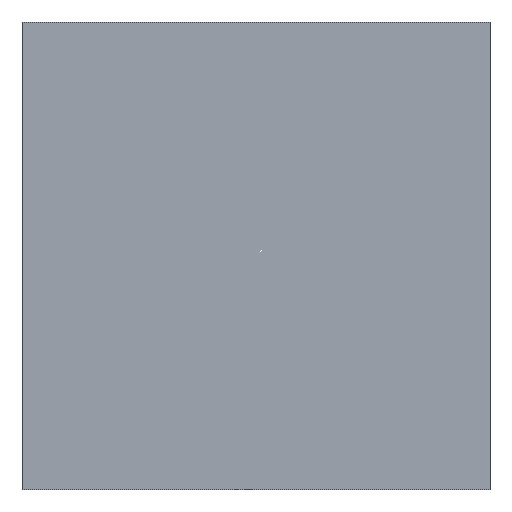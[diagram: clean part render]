
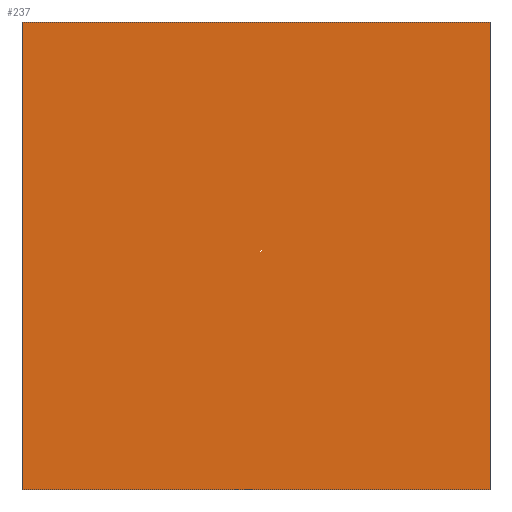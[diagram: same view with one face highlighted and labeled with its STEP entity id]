
A CAD part, front view. The second image highlights one B-rep face of the part: STEP entity #237.
In plain terms, the highlighted planar face has unit normal (0, -1, 0).
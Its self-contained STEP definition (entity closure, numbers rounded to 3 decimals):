
#21 = EDGE_CURVE('',#22,#24,#26,.T.);
#22 = VERTEX_POINT('',#23);
#23 = CARTESIAN_POINT('',(2.5,-13.4,10.65));
#24 = VERTEX_POINT('',#25);
#25 = CARTESIAN_POINT('',(2.5,-13.4,10.95));
#26 = SURFACE_CURVE('',#27,(#31,#43),.PCURVE_S1.);
#27 = LINE('',#28,#29);
#28 = CARTESIAN_POINT('',(2.5,-13.4,10.65));
#29 = VECTOR('',#30,1.);
#30 = DIRECTION('',(0.,0.,1.));
#31 = PCURVE('',#32,#37);
#32 = PLANE('',#33);
#33 = AXIS2_PLACEMENT_3D('',#34,#35,#36);
#34 = CARTESIAN_POINT('',(2.5,-13.4,10.65));
#35 = DIRECTION('',(1.,0.,0.));
#36 = DIRECTION('',(0.,0.,1.));
#37 = DEFINITIONAL_REPRESENTATION('',(#38),#42);
#38 = LINE('',#39,#40);
#39 = CARTESIAN_POINT('',(0.,0.));
#40 = VECTOR('',#41,1.);
#41 = DIRECTION('',(1.,0.));
#42 = ( GEOMETRIC_REPRESENTATION_CONTEXT(2) 
PARAMETRIC_REPRESENTATION_CONTEXT() REPRESENTATION_CONTEXT('2D SPACE',''
  ) );
#43 = PCURVE('',#44,#49);
#44 = PLANE('',#45);
#45 = AXIS2_PLACEMENT_3D('',#46,#47,#48);
#46 = CARTESIAN_POINT('',(2.5,-13.4,10.65));
#47 = DIRECTION('',(0.,1.,0.));
#48 = DIRECTION('',(0.,0.,1.));
#49 = DEFINITIONAL_REPRESENTATION('',(#50),#54);
#50 = LINE('',#51,#52);
#51 = CARTESIAN_POINT('',(0.,0.));
#52 = VECTOR('',#53,1.);
#53 = DIRECTION('',(1.,0.));
#54 = ( GEOMETRIC_REPRESENTATION_CONTEXT(2) 
PARAMETRIC_REPRESENTATION_CONTEXT() REPRESENTATION_CONTEXT('2D SPACE',''
  ) );
#72 = PLANE('',#73);
#73 = AXIS2_PLACEMENT_3D('',#74,#75,#76);
#74 = CARTESIAN_POINT('',(2.5,-13.4,10.65));
#75 = DIRECTION('',(0.,0.,1.));
#76 = DIRECTION('',(1.,0.,0.));
#126 = PLANE('',#127);
#127 = AXIS2_PLACEMENT_3D('',#128,#129,#130);
#128 = CARTESIAN_POINT('',(2.5,-13.4,10.95));
#129 = DIRECTION('',(0.,0.,1.));
#130 = DIRECTION('',(1.,0.,0.));
#141 = EDGE_CURVE('',#142,#144,#146,.T.);
#142 = VERTEX_POINT('',#143);
#143 = CARTESIAN_POINT('',(2.8,-13.4,10.65));
#144 = VERTEX_POINT('',#145);
#145 = CARTESIAN_POINT('',(2.8,-13.4,10.95));
#146 = SURFACE_CURVE('',#147,(#151,#163),.PCURVE_S1.);
#147 = LINE('',#148,#149);
#148 = CARTESIAN_POINT('',(2.8,-13.4,10.65));
#149 = VECTOR('',#150,1.);
#150 = DIRECTION('',(0.,0.,1.));
#151 = PCURVE('',#152,#157);
#152 = PLANE('',#153);
#153 = AXIS2_PLACEMENT_3D('',#154,#155,#156);
#154 = CARTESIAN_POINT('',(2.8,-13.4,10.65));
#155 = DIRECTION('',(1.,0.,0.));
#156 = DIRECTION('',(0.,0.,1.));
#157 = DEFINITIONAL_REPRESENTATION('',(#158),#162);
#158 = LINE('',#159,#160);
#159 = CARTESIAN_POINT('',(0.,0.));
#160 = VECTOR('',#161,1.);
#161 = DIRECTION('',(1.,0.));
#162 = ( GEOMETRIC_REPRESENTATION_CONTEXT(2) 
PARAMETRIC_REPRESENTATION_CONTEXT() REPRESENTATION_CONTEXT('2D SPACE',''
  ) );
#163 = PCURVE('',#44,#164);
#164 = DEFINITIONAL_REPRESENTATION('',(#165),#169);
#165 = LINE('',#166,#167);
#166 = CARTESIAN_POINT('',(0.,0.3));
#167 = VECTOR('',#168,1.);
#168 = DIRECTION('',(1.,0.));
#169 = ( GEOMETRIC_REPRESENTATION_CONTEXT(2) 
PARAMETRIC_REPRESENTATION_CONTEXT() REPRESENTATION_CONTEXT('2D SPACE',''
  ) );
#237 = ADVANCED_FACE('',(#238),#44,.F.);
#238 = FACE_BOUND('',#239,.F.);
#239 = EDGE_LOOP('',(#240,#261,#262,#283));
#240 = ORIENTED_EDGE('',*,*,#241,.F.);
#241 = EDGE_CURVE('',#22,#142,#242,.T.);
#242 = SURFACE_CURVE('',#243,(#247,#254),.PCURVE_S1.);
#243 = LINE('',#244,#245);
#244 = CARTESIAN_POINT('',(2.5,-13.4,10.65));
#245 = VECTOR('',#246,1.);
#246 = DIRECTION('',(1.,0.,0.));
#247 = PCURVE('',#44,#248);
#248 = DEFINITIONAL_REPRESENTATION('',(#249),#253);
#249 = LINE('',#250,#251);
#250 = CARTESIAN_POINT('',(0.,0.));
#251 = VECTOR('',#252,1.);
#252 = DIRECTION('',(0.,1.));
#253 = ( GEOMETRIC_REPRESENTATION_CONTEXT(2) 
PARAMETRIC_REPRESENTATION_CONTEXT() REPRESENTATION_CONTEXT('2D SPACE',''
  ) );
#254 = PCURVE('',#72,#255);
#255 = DEFINITIONAL_REPRESENTATION('',(#256),#260);
#256 = LINE('',#257,#258);
#257 = CARTESIAN_POINT('',(0.,0.));
#258 = VECTOR('',#259,1.);
#259 = DIRECTION('',(1.,0.));
#260 = ( GEOMETRIC_REPRESENTATION_CONTEXT(2) 
PARAMETRIC_REPRESENTATION_CONTEXT() REPRESENTATION_CONTEXT('2D SPACE',''
  ) );
#261 = ORIENTED_EDGE('',*,*,#21,.T.);
#262 = ORIENTED_EDGE('',*,*,#263,.T.);
#263 = EDGE_CURVE('',#24,#144,#264,.T.);
#264 = SURFACE_CURVE('',#265,(#269,#276),.PCURVE_S1.);
#265 = LINE('',#266,#267);
#266 = CARTESIAN_POINT('',(2.5,-13.4,10.95));
#267 = VECTOR('',#268,1.);
#268 = DIRECTION('',(1.,0.,0.));
#269 = PCURVE('',#44,#270);
#270 = DEFINITIONAL_REPRESENTATION('',(#271),#275);
#271 = LINE('',#272,#273);
#272 = CARTESIAN_POINT('',(0.3,0.));
#273 = VECTOR('',#274,1.);
#274 = DIRECTION('',(0.,1.));
#275 = ( GEOMETRIC_REPRESENTATION_CONTEXT(2) 
PARAMETRIC_REPRESENTATION_CONTEXT() REPRESENTATION_CONTEXT('2D SPACE',''
  ) );
#276 = PCURVE('',#126,#277);
#277 = DEFINITIONAL_REPRESENTATION('',(#278),#282);
#278 = LINE('',#279,#280);
#279 = CARTESIAN_POINT('',(0.,0.));
#280 = VECTOR('',#281,1.);
#281 = DIRECTION('',(1.,0.));
#282 = ( GEOMETRIC_REPRESENTATION_CONTEXT(2) 
PARAMETRIC_REPRESENTATION_CONTEXT() REPRESENTATION_CONTEXT('2D SPACE',''
  ) );
#283 = ORIENTED_EDGE('',*,*,#141,.F.);
